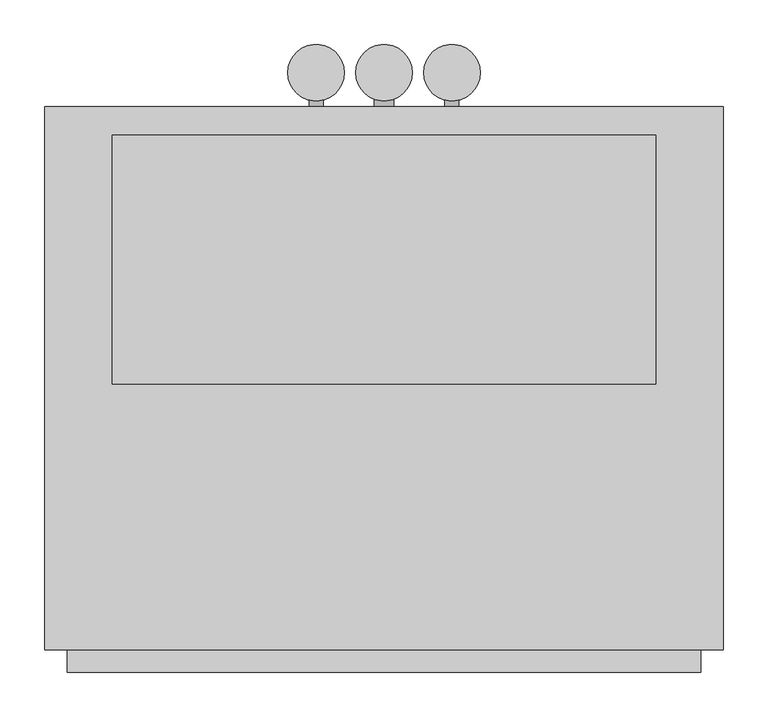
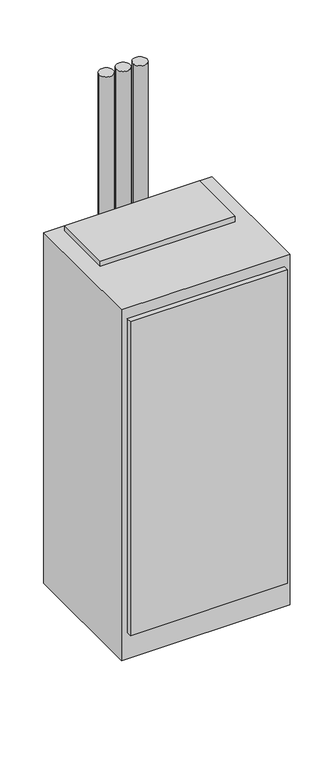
"""IFC4 building model written with IfcOpenShell, lengths in millimetres: proxy geometry, Concealed_Modular_Fan_Coil_Unit_-_42SMA_-_CARRIER_-_2-Pipe_Cool-EHeat_-_WithRisers_2022 : Size 14 - 277v/60Hz/1Ph - 5 Row 12.0kW."""

from ifc_helpers import new_model, si_unit, point, frame, frame_2d, origin, origin_with_axes, place, context, project, spatial, polyline, circle_curve, trimmed, segment, composite_curve, outline, extrude, source, transform, mapped, element, save


def mechanical_equipment_26e97b97(model_context):
    return source(origin(), model_context, "Body", "SweptSolid", [
        extrude(outline(composite_curve([segment(trimmed(circle_curve(frame_2d((457.2, 282.575)), 31.75), [point((425.45, 282.575))], [point((488.95, 282.575))], False, "CARTESIAN"), True, "CONTINUOUS"), segment(trimmed(circle_curve(frame_2d((457.2, 282.575)), 31.75), [point((488.95, 282.575))], [point((425.45, 282.575))], False, "CARTESIAN"), True, "CONTINUOUS")], self_intersect=False)), frame((0.0, 0.0, -330.2), z_axis=(0.0, 0.0, 1.0), x_axis=(1.0, 0.0, 0.0)), (0.0, 0.0, 1.0), 2641.6),
        extrude(outline(composite_curve([segment(trimmed(circle_curve(frame_2d((533.4, 282.575)), 31.75), [point((501.65, 282.575))], [point((565.15, 282.575))], False, "CARTESIAN"), True, "CONTINUOUS"), segment(trimmed(circle_curve(frame_2d((533.4, 282.575)), 31.75), [point((565.15, 282.575))], [point((501.65, 282.575))], False, "CARTESIAN"), True, "CONTINUOUS")], self_intersect=False)), frame((0.0, 0.0, -330.2), z_axis=(0.0, 0.0, 1.0), x_axis=(1.0, 0.0, 0.0)), (0.0, 0.0, 1.0), 2641.6),
        extrude(outline(composite_curve([segment(trimmed(circle_curve(frame_2d((609.6, 282.575)), 31.75), [point((577.85, 282.575))], [point((641.35, 282.575))], False, "CARTESIAN"), True, "CONTINUOUS"), segment(trimmed(circle_curve(frame_2d((609.6, 282.575)), 31.75), [point((641.35, 282.575))], [point((577.85, 282.575))], False, "CARTESIAN"), True, "CONTINUOUS")], self_intersect=False)), frame((0.0, 0.0, -330.2), z_axis=(0.0, 0.0, 1.0), x_axis=(1.0, 0.0, 0.0)), (0.0, 0.0, 1.0), 2641.6),
        extrude(outline(composite_curve([segment(trimmed(circle_curve(frame_2d((990.6, 609.6)), 7.9375), [point((990.6, 601.6625))], [point((990.6, 617.5375))], False, "CARTESIAN"), True, "CONTINUOUS"), segment(trimmed(circle_curve(frame_2d((990.6, 609.6)), 7.9375), [point((990.6, 617.5375))], [point((990.6, 601.6625))], False, "CARTESIAN"), True, "CONTINUOUS")], self_intersect=False)), frame((0.0, 244.475, 0.0), z_axis=(0.0, 1.0, 0.0), x_axis=(0.0, 0.0, 1.0)), (0.0, 0.0, 1.0), 50.8),
        extrude(outline(composite_curve([segment(trimmed(circle_curve(frame_2d((990.6, 457.2)), 7.9375), [point((990.6, 449.2625))], [point((990.6, 465.1375))], False, "CARTESIAN"), True, "CONTINUOUS"), segment(trimmed(circle_curve(frame_2d((990.6, 457.2)), 7.9375), [point((990.6, 465.1375))], [point((990.6, 449.2625))], False, "CARTESIAN"), True, "CONTINUOUS")], self_intersect=False)), frame((0.0, 244.475, 0.0), z_axis=(0.0, 1.0, 0.0), x_axis=(0.0, 0.0, 1.0)), (0.0, 0.0, 1.0), 50.8),
        extrude(outline(composite_curve([segment(trimmed(circle_curve(frame_2d((76.2, 533.4)), 11.1125), [point((76.2, 522.2875))], [point((76.2, 544.5125))], False, "CARTESIAN"), True, "CONTINUOUS"), segment(trimmed(circle_curve(frame_2d((76.2, 533.4)), 11.1125), [point((76.2, 544.5125))], [point((76.2, 522.2875))], False, "CARTESIAN"), True, "CONTINUOUS")], self_intersect=False)), frame((0.0, 244.475, 0.0), z_axis=(0.0, 1.0, 0.0), x_axis=(0.0, 0.0, 1.0)), (0.0, 0.0, 1.0), 50.8),
        extrude(outline(polyline([(838.2, 212.725), (838.2, -66.675), (228.6, -66.675), (228.6, 212.725), (838.2, 212.725)])), frame((0.0, 0.0, 1676.4), z_axis=(0.0, 0.0, 1.0), x_axis=(1.0, 0.0, 0.0)), (0.0, 0.0, 1.0), 25.4),
        extrude(outline(polyline([(889.0, -390.525), (177.8, -390.525), (177.8, -365.125), (889.0, -365.125), (889.0, -390.525)])), frame((0.0, 0.0, 127.0), z_axis=(0.0, 0.0, 1.0), x_axis=(1.0, 0.0, 0.0)), (0.0, 0.0, 1.0), 1498.6),
        extrude(outline(polyline([(914.4, 244.475), (914.4, -365.125), (152.4, -365.125), (152.4, 244.475), (914.4, 244.475)])), origin_with_axes(), (0.0, 0.0, 1.0), 1676.4),
    ])


if __name__ == "__main__":
    model = new_model("IFC4")
    model_context = context("Model", 3, world=origin())
    ifc_project = project(units=[si_unit("LENGTHUNIT", "METRE", prefix="MILLI")], contexts=[model_context])
    site = spatial("IfcSite", under=ifc_project)
    building = spatial("IfcBuilding", under=site)
    placement = place(None, origin())
    mechanical_equipment_shape = mechanical_equipment_26e97b97(model_context)
    element("IfcBuildingElementProxy", 1, Name="Concealed_Modular_Fan_Coil_Unit_-_42SMA_-_CARRIER_-_2-Pipe_Cool-EHeat_-_WithRisers_2022 : Size 14 - 277v/60Hz/1Ph - 5 Row 12.0kW", ObjectType="Concealed_Modular_Fan_Coil_Unit_-_42SMA_-_CARRIER_-_2-Pipe_Cool-EHeat_-_WithRisers_2022 : Size 14 - 277v/60Hz/1Ph - 5 Row 12.0kW", at=placement, inside=building, context=model_context, shape_type="MappedRepresentation", body=[
        mapped(mechanical_equipment_shape, transform((0.0, 0.0, 0.0), x_axis=(1.0, 0.0, 0.0), y_axis=(0.0, 1.0, 0.0), z_axis=(0.0, 0.0, 1.0))),
    ])
    save(model, "model.ifc")
